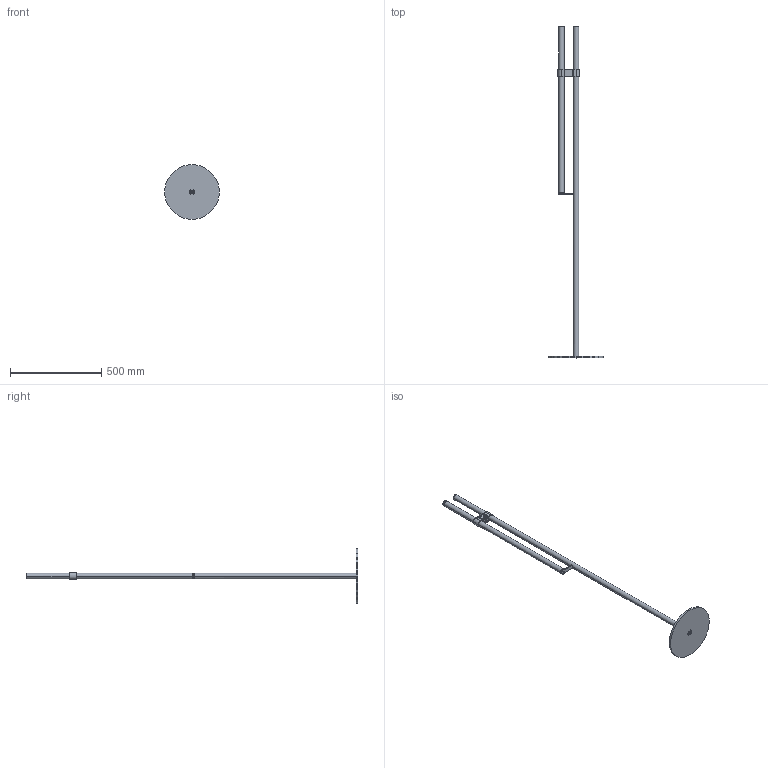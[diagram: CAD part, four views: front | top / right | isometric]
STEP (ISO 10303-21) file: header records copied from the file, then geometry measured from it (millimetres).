
FILE_DESCRIPTION (( 'STEP AP214' ), '1' );
FILE_NAME ('PTPARALELAXXXXX.STEP', '2023-08-31T10:43:25', ( '' ), ( '' ), 'SwSTEP 2.0', 'SolidWorks 2023', '' );
FILE_SCHEMA (( 'AUTOMOTIVE_DESIGN' ));
Length unit declared in the file: millimetre
Products named in the file (11): WSCP2E0034-1400-00; WSCM2C0158-0100-00; WSCP2E0032-1400-00; WSVBPAR091225XX-00_1; WSCM2C0156-0100-00; WSCP2E0039-1400-01; PTPARALELAXXXXX; WSCP2E0041-1400-01; WSCM2D0051-0100-01; WSCP2L0007-0400-00; WSCP2E0036-1400-01
Assembly tree (10 placements, depth 2):
  PTPARALELAXXXXX
    WSVBPAR091225XX-00_1
    WSCP2E0041-1400-01
    WSCP2E0036-1400-01
    WSCP2E0032-1400-00
    WSCM2D0051-0100-01
    WSCM2C0156-0100-00
    WSCP2E0034-1400-00
    WSCM2C0158-0100-00
    WSCP2E0039-1400-01
    WSCP2L0007-0400-00
Bounding box: 300 x 1821 x 300 mm (x, y, z)
Volume: 1315171.5 mm3; surface area: 677162.8 mm2
Topology: 10 solids, 10 shells, 4223 faces, 9770 edges, 5364 vertices
Faces by surface type: bspline 1832, cylinder 1763, plane 597, cone 31
Entity records: 149206 total; most frequent: CARTESIAN_POINT 63670, ORIENTED_EDGE 19096, DIRECTION 16698, EDGE_CURVE 9548, AXIS2_PLACEMENT_3D 6715, VERTEX_POINT 5364, CIRCLE 4311, EDGE_LOOP 4300
